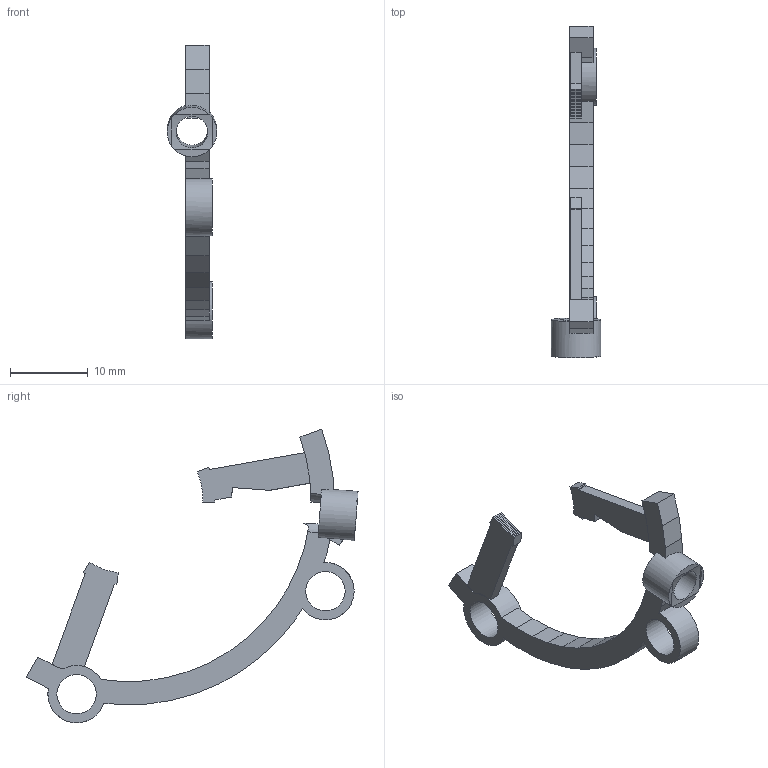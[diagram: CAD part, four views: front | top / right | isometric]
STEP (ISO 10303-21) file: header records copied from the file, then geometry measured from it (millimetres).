
FILE_DESCRIPTION(('Open CASCADE Model'),'2;1');
FILE_NAME('B3_R12_U_axis_two_foot_fork','2026-09-28T18:27:09',('Author') ,('Open CASCADE'),'Open CASCADE STEP processor 7.9','build123d', 'Unknown');
FILE_SCHEMA(('AUTOMOTIVE_DESIGN { 1 0 10303 214 1 1 1 1 }'));
Length unit declared in the file: millimetre
Products named in the file (1): B3_R12_U_axis_two_foot_fork
Bounding box: 6.4 x 42.83 x 37.88 mm (x, y, z)
Volume: 805 mm3; surface area: 1378.6 mm2
Topology: 1 solids, 1 shells, 132 faces, 386 edges, 258 vertices
Faces by surface type: plane 119, cylinder 13
Full cylindrical faces by diameter (mm): 1.3 x2, 4.06 x1, 5.08 x2, 6.4 x1, 7.4 x2
Entity records: 9801 total; most frequent: CARTESIAN_POINT 2229, DIRECTION 1340, LINE 954, VECTOR 954, ORIENTED_EDGE 772, PCURVE 772, DEFINITIONAL_REPRESENTATION 772, EDGE_CURVE 386
